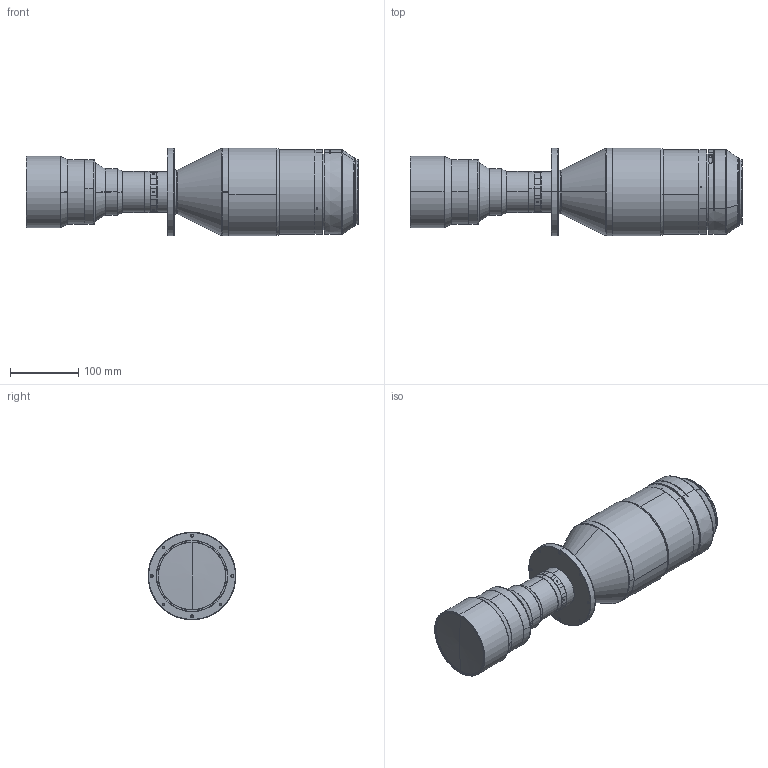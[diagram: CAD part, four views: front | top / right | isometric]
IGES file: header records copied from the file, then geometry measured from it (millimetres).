
Start section: SolidWorks IGES file using analytic representation for surfaces
Bounding box: 485.35 x 128 x 128 mm (x, y, z)
Surface area: 222012.1 mm2 (no closed solid volume)
Topology: 0 solids, 0 shells, 360 faces, 8794 edges, 8788 vertices
Faces by surface type: revolution 258, bspline 102
